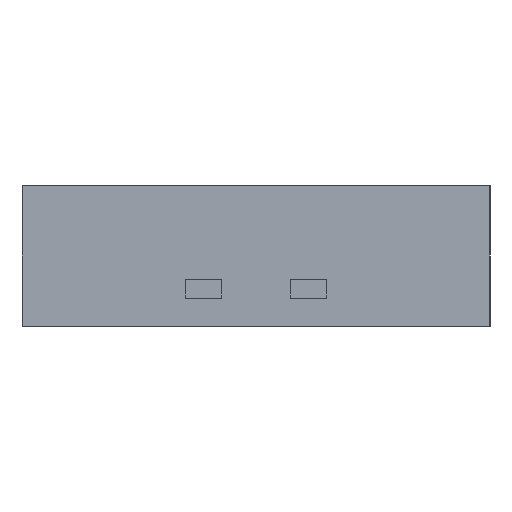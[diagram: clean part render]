
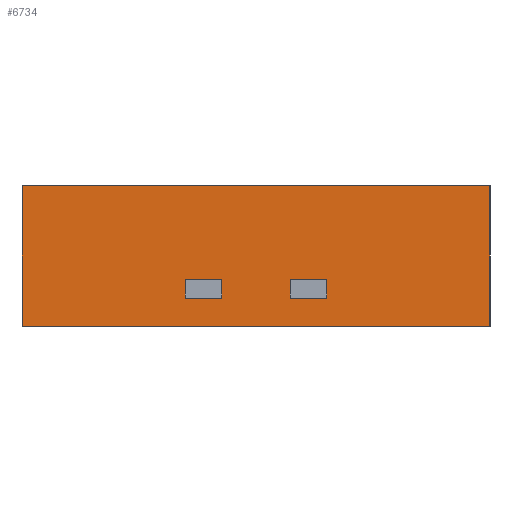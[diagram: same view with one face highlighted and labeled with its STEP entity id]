
A CAD part, left-side view. The second image highlights one B-rep face of the part: STEP entity #6734.
In plain terms, the highlighted planar face has unit normal (-1, 0, 0).
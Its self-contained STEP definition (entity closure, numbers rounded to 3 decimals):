
#11 = DIRECTION ( 'NONE',  ( 0., 1., 0. ) ) ;
#41 = ORIENTED_EDGE ( 'NONE', *, *, #5983, .T. ) ;
#104 = DIRECTION ( 'NONE',  ( 0., 0., 1. ) ) ;
#204 = ORIENTED_EDGE ( 'NONE', *, *, #275, .F. ) ;
#275 = EDGE_CURVE ( 'NONE', #7502, #1705, #5994, .T. ) ;
#453 = CARTESIAN_POINT ( 'NONE',  ( -1.362, -0.279, 2.22 ) ) ;
#619 = CARTESIAN_POINT ( 'NONE',  ( -1.362, -0.976, 2.1 ) ) ;
#631 = CARTESIAN_POINT ( 'NONE',  ( -1.362, 0.171, 2.3 ) ) ;
#647 = DIRECTION ( 'NONE',  ( 0., 1., 0. ) ) ;
#740 = CARTESIAN_POINT ( 'NONE',  ( -1.362, 0.171, 2.22 ) ) ;
#808 = VERTEX_POINT ( 'NONE', #1395 ) ;
#920 = CARTESIAN_POINT ( 'NONE',  ( -1.362, 1.024, 2.1 ) ) ;
#957 = DIRECTION ( 'NONE',  ( 0., 0., 1. ) ) ;
#984 = ORIENTED_EDGE ( 'NONE', *, *, #2758, .F. ) ;
#1013 = VERTEX_POINT ( 'NONE', #2757 ) ;
#1032 = EDGE_CURVE ( 'NONE', #5688, #1793, #7900, .T. ) ;
#1159 = PLANE ( 'NONE',  #6287 ) ;
#1363 = EDGE_CURVE ( 'NONE', #3445, #2279, #5170, .T. ) ;
#1395 = CARTESIAN_POINT ( 'NONE',  ( -1.362, -0.123, 2.3 ) ) ;
#1605 = VECTOR ( 'NONE', #6451, 1000. ) ;
#1663 = CARTESIAN_POINT ( 'NONE',  ( -1.362, -0.976, 2.7 ) ) ;
#1705 = VERTEX_POINT ( 'NONE', #6591 ) ;
#1741 = CARTESIAN_POINT ( 'NONE',  ( -1.362, -0.279, 2.3 ) ) ;
#1762 = EDGE_CURVE ( 'NONE', #3827, #808, #2359, .T. ) ;
#1793 = VERTEX_POINT ( 'NONE', #7323 ) ;
#1859 = VERTEX_POINT ( 'NONE', #2438 ) ;
#1913 = LINE ( 'NONE', #619, #7328 ) ;
#1997 = EDGE_CURVE ( 'NONE', #2279, #1859, #7690, .T. ) ;
#2097 = CARTESIAN_POINT ( 'NONE',  ( -1.362, 0.327, 2.22 ) ) ;
#2106 = ORIENTED_EDGE ( 'NONE', *, *, #1363, .T. ) ;
#2198 = VERTEX_POINT ( 'NONE', #5453 ) ;
#2279 = VERTEX_POINT ( 'NONE', #2710 ) ;
#2290 = VECTOR ( 'NONE', #11, 1000. ) ;
#2334 = CARTESIAN_POINT ( 'NONE',  ( -1.362, -0.279, 2.22 ) ) ;
#2359 = LINE ( 'NONE', #5340, #7470 ) ;
#2432 = DIRECTION ( 'NONE',  ( 0., 1., 0. ) ) ;
#2438 = CARTESIAN_POINT ( 'NONE',  ( -1.362, 0.327, 2.3 ) ) ;
#2523 = VECTOR ( 'NONE', #6612, 1000. ) ;
#2561 = ORIENTED_EDGE ( 'NONE', *, *, #4590, .F. ) ;
#2627 = DIRECTION ( 'NONE',  ( 0., 1., 0. ) ) ;
#2671 = ORIENTED_EDGE ( 'NONE', *, *, #7021, .T. ) ;
#2710 = CARTESIAN_POINT ( 'NONE',  ( -1.362, 0.327, 2.22 ) ) ;
#2757 = CARTESIAN_POINT ( 'NONE',  ( -1.362, 1.024, 2.1 ) ) ;
#2758 = EDGE_CURVE ( 'NONE', #2198, #1859, #5589, .T. ) ;
#2806 = EDGE_LOOP ( 'NONE', ( #5630, #204, #2671, #6391 ) ) ;
#2844 = VECTOR ( 'NONE', #6173, 1000. ) ;
#3023 = VECTOR ( 'NONE', #957, 1000. ) ;
#3219 = CARTESIAN_POINT ( 'NONE',  ( -1.362, -0.976, 2.7 ) ) ;
#3362 = EDGE_LOOP ( 'NONE', ( #984, #7621, #2106, #5784 ) ) ;
#3392 = CARTESIAN_POINT ( 'NONE',  ( -1.362, -0.279, 2.22 ) ) ;
#3445 = VERTEX_POINT ( 'NONE', #3530 ) ;
#3530 = CARTESIAN_POINT ( 'NONE',  ( -1.362, 0.171, 2.22 ) ) ;
#3666 = FACE_OUTER_BOUND ( 'NONE', #5303, .T. ) ;
#3827 = VERTEX_POINT ( 'NONE', #7005 ) ;
#3976 = CARTESIAN_POINT ( 'NONE',  ( -1.362, 0.171, 2.22 ) ) ;
#4021 = DIRECTION ( 'NONE',  ( 0., 0., 1. ) ) ;
#4150 = LINE ( 'NONE', #1741, #2844 ) ;
#4243 = EDGE_CURVE ( 'NONE', #1705, #808, #4150, .T. ) ;
#4265 = LINE ( 'NONE', #453, #2523 ) ;
#4339 = VECTOR ( 'NONE', #104, 1000. ) ;
#4572 = ORIENTED_EDGE ( 'NONE', *, *, #6616, .F. ) ;
#4590 = EDGE_CURVE ( 'NONE', #4692, #1013, #6847, .T. ) ;
#4692 = VERTEX_POINT ( 'NONE', #7465 ) ;
#4803 = VECTOR ( 'NONE', #647, 1000. ) ;
#4817 = DIRECTION ( 'NONE',  ( 0., 0., 1. ) ) ;
#5025 = VECTOR ( 'NONE', #4021, 1000. ) ;
#5170 = LINE ( 'NONE', #740, #5641 ) ;
#5303 = EDGE_LOOP ( 'NONE', ( #5463, #4572, #2561, #41 ) ) ;
#5326 = LINE ( 'NONE', #3976, #1605 ) ;
#5340 = CARTESIAN_POINT ( 'NONE',  ( -1.362, -0.123, 2.22 ) ) ;
#5345 = EDGE_CURVE ( 'NONE', #2198, #3445, #5326, .T. ) ;
#5453 = CARTESIAN_POINT ( 'NONE',  ( -1.362, 0.171, 2.3 ) ) ;
#5463 = ORIENTED_EDGE ( 'NONE', *, *, #1032, .T. ) ;
#5589 = LINE ( 'NONE', #631, #2290 ) ;
#5616 = DIRECTION ( 'NONE',  ( 0., 0., 1. ) ) ;
#5630 = ORIENTED_EDGE ( 'NONE', *, *, #4243, .F. ) ;
#5641 = VECTOR ( 'NONE', #2627, 1000. ) ;
#5688 = VERTEX_POINT ( 'NONE', #3219 ) ;
#5784 = ORIENTED_EDGE ( 'NONE', *, *, #1997, .T. ) ;
#5982 = FACE_BOUND ( 'NONE', #3362, .T. ) ;
#5983 = EDGE_CURVE ( 'NONE', #4692, #5688, #1913, .T. ) ;
#5994 = LINE ( 'NONE', #2334, #3023 ) ;
#6131 = DIRECTION ( 'NONE',  ( 1., 0., 0. ) ) ;
#6173 = DIRECTION ( 'NONE',  ( 0., 1., 0. ) ) ;
#6287 = AXIS2_PLACEMENT_3D ( 'NONE', #8034, #6131, #2432 ) ;
#6391 = ORIENTED_EDGE ( 'NONE', *, *, #1762, .T. ) ;
#6451 = DIRECTION ( 'NONE',  ( 0., 0., -1. ) ) ;
#6591 = CARTESIAN_POINT ( 'NONE',  ( -1.362, -0.279, 2.3 ) ) ;
#6612 = DIRECTION ( 'NONE',  ( 0., 1., 0. ) ) ;
#6616 = EDGE_CURVE ( 'NONE', #1013, #1793, #6968, .T. ) ;
#6734 = ADVANCED_FACE ( 'NONE', ( #7950, #3666, #5982 ), #1159, .F. ) ;
#6847 = LINE ( 'NONE', #7392, #4803 ) ;
#6968 = LINE ( 'NONE', #920, #4339 ) ;
#7005 = CARTESIAN_POINT ( 'NONE',  ( -1.362, -0.123, 2.22 ) ) ;
#7021 = EDGE_CURVE ( 'NONE', #7502, #3827, #4265, .T. ) ;
#7173 = VECTOR ( 'NONE', #7729, 1000. ) ;
#7323 = CARTESIAN_POINT ( 'NONE',  ( -1.362, 1.024, 2.7 ) ) ;
#7328 = VECTOR ( 'NONE', #5616, 1000. ) ;
#7392 = CARTESIAN_POINT ( 'NONE',  ( -1.362, -0.976, 2.1 ) ) ;
#7465 = CARTESIAN_POINT ( 'NONE',  ( -1.362, -0.976, 2.1 ) ) ;
#7470 = VECTOR ( 'NONE', #4817, 1000. ) ;
#7502 = VERTEX_POINT ( 'NONE', #3392 ) ;
#7621 = ORIENTED_EDGE ( 'NONE', *, *, #5345, .T. ) ;
#7690 = LINE ( 'NONE', #2097, #5025 ) ;
#7729 = DIRECTION ( 'NONE',  ( 0., 1., 0. ) ) ;
#7900 = LINE ( 'NONE', #1663, #7173 ) ;
#7950 = FACE_BOUND ( 'NONE', #2806, .T. ) ;
#8034 = CARTESIAN_POINT ( 'NONE',  ( -1.362, -0.976, 2.1 ) ) ;
